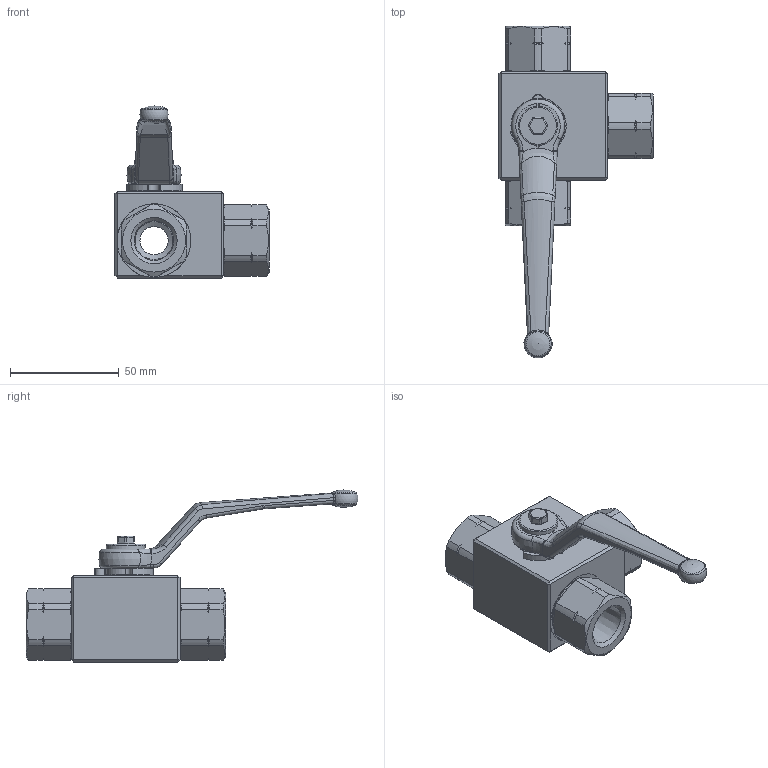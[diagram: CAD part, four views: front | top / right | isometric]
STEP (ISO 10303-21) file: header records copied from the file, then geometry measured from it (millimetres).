
FILE_DESCRIPTION( ( 'Unknown' ), '1' );
FILE_NAME( 'H:/PISTER/3D-MODELLE/BK3-Edelstahl stp/BK3-Edelst DN13 1_2 NPT.stp', 'Unknown', ( 'Unknown' ), ( 'Unknown' ), 'PSStep 14.0', 'Unknown', ' ' );
FILE_SCHEMA( ( 'AUTOMOTIVE_DESIGN { 1 0 10303 214 1 1 1 1 }' ) );
Length unit declared in the file: millimetre
Products named in the file (11): Assem1; 09-09-003; 58-28740-16-oa2; 58-0440-009; 58-0933-235; 03-013-004-oa4; 04-013-045-oa5; 04-013-045-oa6; 56-032-005-oa11; Griff_SW9; 01-013-044-oa12
Assembly tree (10 placements, depth 2):
  Assem1
    09-09-003
    58-28740-16-oa2
    58-0440-009
    58-0933-235
    03-013-004-oa4
    04-013-045-oa5
    04-013-045-oa6
    56-032-005-oa11
    Griff_SW9
    01-013-044-oa12
Bounding box: 71 x 153 x 79.3 mm (x, y, z)
Volume: 106438.2 mm3; surface area: 40829.7 mm2
Topology: 10 solids, 10 shells, 412 faces, 1066 edges, 675 vertices
Faces by surface type: plane 139, cylinder 135, cone 66, bspline 36, torus 32, sphere 4
Full cylindrical faces by diameter (mm): 4.2 x1, 4.98 x1, 5 x1, 5.8 x1, 13 x3, 14 x2, 17.473 x3, 18 x1, 23.1 x1, 24.376 x1, 24.5 x1, 26 x2, 26.35 x1, 29 x3, 29.5 x3, 34 x3
Entity records: 17413 total; most frequent: CARTESIAN_POINT 4800, ORIENTED_EDGE 1916, DIRECTION 1892, EDGE_CURVE 958, AXIS2_PLACEMENT_3D 761, VERTEX_POINT 632, EDGE_LOOP 497, FACE_OUTER_BOUND 448
